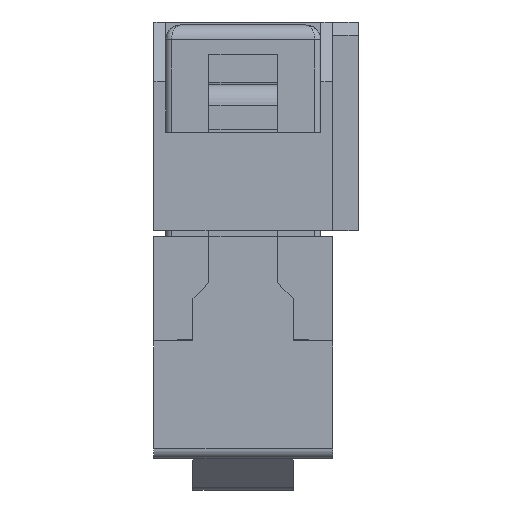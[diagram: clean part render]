
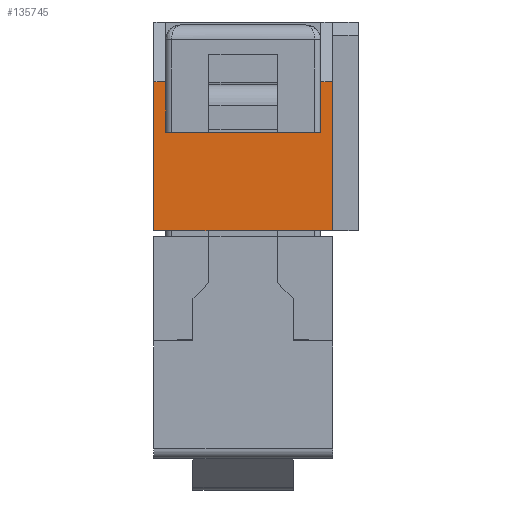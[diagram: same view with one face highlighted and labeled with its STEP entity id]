
A CAD part, left-side view. The second image highlights one B-rep face of the part: STEP entity #135745.
In plain terms, the highlighted planar face has unit normal (-1, 0, 0).
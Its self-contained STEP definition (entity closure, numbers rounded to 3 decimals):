
#127527 = PLANE('',#127528);
#127528 = AXIS2_PLACEMENT_3D('',#127529,#127530,#127531);
#127529 = CARTESIAN_POINT('',(-27.74,-3.,0.));
#127530 = DIRECTION('',(0.,0.,1.));
#127531 = DIRECTION('',(1.,0.,0.));
#130089 = VERTEX_POINT('',#130090);
#130090 = CARTESIAN_POINT('',(-27.74,-3.,0.));
#130104 = PLANE('',#130105);
#130105 = AXIS2_PLACEMENT_3D('',#130106,#130107,#130108);
#130106 = CARTESIAN_POINT('',(-27.74,-3.,7.));
#130107 = DIRECTION('',(0.,1.,0.));
#130108 = DIRECTION('',(-1.,0.,0.));
#130116 = EDGE_CURVE('',#130117,#130089,#130119,.T.);
#130117 = VERTEX_POINT('',#130118);
#130118 = CARTESIAN_POINT('',(-27.74,3.,0.));
#130119 = SURFACE_CURVE('',#130120,(#130124,#130131),.PCURVE_S1.);
#130120 = LINE('',#130121,#130122);
#130121 = CARTESIAN_POINT('',(-27.74,3.,0.));
#130122 = VECTOR('',#130123,1.);
#130123 = DIRECTION('',(0.,-1.,0.));
#130124 = PCURVE('',#127527,#130125);
#130125 = DEFINITIONAL_REPRESENTATION('',(#130126),#130130);
#130126 = LINE('',#130127,#130128);
#130127 = CARTESIAN_POINT('',(0.,6.));
#130128 = VECTOR('',#130129,1.);
#130129 = DIRECTION('',(0.,-1.));
#130130 = ( GEOMETRIC_REPRESENTATION_CONTEXT(2) 
PARAMETRIC_REPRESENTATION_CONTEXT() REPRESENTATION_CONTEXT('2D SPACE',''
  ) );
#130131 = PCURVE('',#130132,#130137);
#130132 = PLANE('',#130133);
#130133 = AXIS2_PLACEMENT_3D('',#130134,#130135,#130136);
#130134 = CARTESIAN_POINT('',(-27.74,3.,7.));
#130135 = DIRECTION('',(1.,0.,0.));
#130136 = DIRECTION('',(0.,0.,-1.));
#130137 = DEFINITIONAL_REPRESENTATION('',(#130138),#130142);
#130138 = LINE('',#130139,#130140);
#130139 = CARTESIAN_POINT('',(7.,0.));
#130140 = VECTOR('',#130141,1.);
#130141 = DIRECTION('',(0.,-1.));
#130142 = ( GEOMETRIC_REPRESENTATION_CONTEXT(2) 
PARAMETRIC_REPRESENTATION_CONTEXT() REPRESENTATION_CONTEXT('2D SPACE',''
  ) );
#130160 = PLANE('',#130161);
#130161 = AXIS2_PLACEMENT_3D('',#130162,#130163,#130164);
#130162 = CARTESIAN_POINT('',(27.74,3.,7.));
#130163 = DIRECTION('',(0.,-1.,0.));
#130164 = DIRECTION('',(1.,0.,0.));
#132456 = PLANE('',#132457);
#132457 = AXIS2_PLACEMENT_3D('',#132458,#132459,#132460);
#132458 = CARTESIAN_POINT('',(-27.34,-2.6,56.339));
#132459 = DIRECTION('',(0.,1.,0.));
#132460 = DIRECTION('',(-1.,0.,0.));
#132529 = PLANE('',#132530);
#132530 = AXIS2_PLACEMENT_3D('',#132531,#132532,#132533);
#132531 = CARTESIAN_POINT('',(-25.94,2.6,56.339));
#132532 = DIRECTION('',(0.,-1.,0.));
#132533 = DIRECTION('',(1.,0.,0.));
#135745 = ADVANCED_FACE('',(#135746),#130132,.F.);
#135746 = FACE_BOUND('',#135747,.T.);
#135747 = EDGE_LOOP('',(#135748,#135778,#135801,#135829,#135852,#135880,
    #135901,#135902));
#135748 = ORIENTED_EDGE('',*,*,#135749,.F.);
#135749 = EDGE_CURVE('',#135750,#135752,#135754,.T.);
#135750 = VERTEX_POINT('',#135751);
#135751 = CARTESIAN_POINT('',(-27.74,-2.6,5.));
#135752 = VERTEX_POINT('',#135753);
#135753 = CARTESIAN_POINT('',(-27.74,-3.,5.));
#135754 = SURFACE_CURVE('',#135755,(#135759,#135766),.PCURVE_S1.);
#135755 = LINE('',#135756,#135757);
#135756 = CARTESIAN_POINT('',(-27.74,3.,5.));
#135757 = VECTOR('',#135758,1.);
#135758 = DIRECTION('',(0.,-1.,0.));
#135759 = PCURVE('',#130132,#135760);
#135760 = DEFINITIONAL_REPRESENTATION('',(#135761),#135765);
#135761 = LINE('',#135762,#135763);
#135762 = CARTESIAN_POINT('',(2.,0.));
#135763 = VECTOR('',#135764,1.);
#135764 = DIRECTION('',(0.,-1.));
#135765 = ( GEOMETRIC_REPRESENTATION_CONTEXT(2) 
PARAMETRIC_REPRESENTATION_CONTEXT() REPRESENTATION_CONTEXT('2D SPACE',''
  ) );
#135766 = PCURVE('',#135767,#135772);
#135767 = PLANE('',#135768);
#135768 = AXIS2_PLACEMENT_3D('',#135769,#135770,#135771);
#135769 = CARTESIAN_POINT('',(-27.74,-56.339,5.));
#135770 = DIRECTION('',(-0.894,0.,0.447));
#135771 = DIRECTION('',(0.447,0.,0.894));
#135772 = DEFINITIONAL_REPRESENTATION('',(#135773),#135777);
#135773 = LINE('',#135774,#135775);
#135774 = CARTESIAN_POINT('',(0.,59.339));
#135775 = VECTOR('',#135776,1.);
#135776 = DIRECTION('',(0.,-1.));
#135777 = ( GEOMETRIC_REPRESENTATION_CONTEXT(2) 
PARAMETRIC_REPRESENTATION_CONTEXT() REPRESENTATION_CONTEXT('2D SPACE',''
  ) );
#135778 = ORIENTED_EDGE('',*,*,#135779,.F.);
#135779 = EDGE_CURVE('',#135780,#135750,#135782,.T.);
#135780 = VERTEX_POINT('',#135781);
#135781 = CARTESIAN_POINT('',(-27.74,-2.6,3.3));
#135782 = SURFACE_CURVE('',#135783,(#135787,#135794),.PCURVE_S1.);
#135783 = LINE('',#135784,#135785);
#135784 = CARTESIAN_POINT('',(-27.74,-2.6,3.3));
#135785 = VECTOR('',#135786,1.);
#135786 = DIRECTION('',(0.,0.,1.));
#135787 = PCURVE('',#130132,#135788);
#135788 = DEFINITIONAL_REPRESENTATION('',(#135789),#135793);
#135789 = LINE('',#135790,#135791);
#135790 = CARTESIAN_POINT('',(3.7,-5.6));
#135791 = VECTOR('',#135792,1.);
#135792 = DIRECTION('',(-1.,0.));
#135793 = ( GEOMETRIC_REPRESENTATION_CONTEXT(2) 
PARAMETRIC_REPRESENTATION_CONTEXT() REPRESENTATION_CONTEXT('2D SPACE',''
  ) );
#135794 = PCURVE('',#132456,#135795);
#135795 = DEFINITIONAL_REPRESENTATION('',(#135796),#135800);
#135796 = LINE('',#135797,#135798);
#135797 = CARTESIAN_POINT('',(0.4,-53.039));
#135798 = VECTOR('',#135799,1.);
#135799 = DIRECTION('',(0.,1.));
#135800 = ( GEOMETRIC_REPRESENTATION_CONTEXT(2) 
PARAMETRIC_REPRESENTATION_CONTEXT() REPRESENTATION_CONTEXT('2D SPACE',''
  ) );
#135801 = ORIENTED_EDGE('',*,*,#135802,.F.);
#135802 = EDGE_CURVE('',#135803,#135780,#135805,.T.);
#135803 = VERTEX_POINT('',#135804);
#135804 = CARTESIAN_POINT('',(-27.74,2.6,3.3));
#135805 = SURFACE_CURVE('',#135806,(#135810,#135817),.PCURVE_S1.);
#135806 = LINE('',#135807,#135808);
#135807 = CARTESIAN_POINT('',(-27.74,2.6,3.3));
#135808 = VECTOR('',#135809,1.);
#135809 = DIRECTION('',(0.,-1.,0.));
#135810 = PCURVE('',#130132,#135811);
#135811 = DEFINITIONAL_REPRESENTATION('',(#135812),#135816);
#135812 = LINE('',#135813,#135814);
#135813 = CARTESIAN_POINT('',(3.7,-0.4));
#135814 = VECTOR('',#135815,1.);
#135815 = DIRECTION('',(0.,-1.));
#135816 = ( GEOMETRIC_REPRESENTATION_CONTEXT(2) 
PARAMETRIC_REPRESENTATION_CONTEXT() REPRESENTATION_CONTEXT('2D SPACE',''
  ) );
#135817 = PCURVE('',#135818,#135823);
#135818 = PLANE('',#135819);
#135819 = AXIS2_PLACEMENT_3D('',#135820,#135821,#135822);
#135820 = CARTESIAN_POINT('',(28.599,2.6,3.3));
#135821 = DIRECTION('',(0.,0.,-1.));
#135822 = DIRECTION('',(-1.,0.,0.));
#135823 = DEFINITIONAL_REPRESENTATION('',(#135824),#135828);
#135824 = LINE('',#135825,#135826);
#135825 = CARTESIAN_POINT('',(56.339,0.));
#135826 = VECTOR('',#135827,1.);
#135827 = DIRECTION('',(0.,-1.));
#135828 = ( GEOMETRIC_REPRESENTATION_CONTEXT(2) 
PARAMETRIC_REPRESENTATION_CONTEXT() REPRESENTATION_CONTEXT('2D SPACE',''
  ) );
#135829 = ORIENTED_EDGE('',*,*,#135830,.F.);
#135830 = EDGE_CURVE('',#135831,#135803,#135833,.T.);
#135831 = VERTEX_POINT('',#135832);
#135832 = CARTESIAN_POINT('',(-27.74,2.6,5.));
#135833 = SURFACE_CURVE('',#135834,(#135838,#135845),.PCURVE_S1.);
#135834 = LINE('',#135835,#135836);
#135835 = CARTESIAN_POINT('',(-27.74,2.6,5.8));
#135836 = VECTOR('',#135837,1.);
#135837 = DIRECTION('',(0.,0.,-1.));
#135838 = PCURVE('',#130132,#135839);
#135839 = DEFINITIONAL_REPRESENTATION('',(#135840),#135844);
#135840 = LINE('',#135841,#135842);
#135841 = CARTESIAN_POINT('',(1.2,-0.4));
#135842 = VECTOR('',#135843,1.);
#135843 = DIRECTION('',(1.,0.));
#135844 = ( GEOMETRIC_REPRESENTATION_CONTEXT(2) 
PARAMETRIC_REPRESENTATION_CONTEXT() REPRESENTATION_CONTEXT('2D SPACE',''
  ) );
#135845 = PCURVE('',#132529,#135846);
#135846 = DEFINITIONAL_REPRESENTATION('',(#135847),#135851);
#135847 = LINE('',#135848,#135849);
#135848 = CARTESIAN_POINT('',(-1.8,-50.539));
#135849 = VECTOR('',#135850,1.);
#135850 = DIRECTION('',(0.,-1.));
#135851 = ( GEOMETRIC_REPRESENTATION_CONTEXT(2) 
PARAMETRIC_REPRESENTATION_CONTEXT() REPRESENTATION_CONTEXT('2D SPACE',''
  ) );
#135852 = ORIENTED_EDGE('',*,*,#135853,.F.);
#135853 = EDGE_CURVE('',#135854,#135831,#135856,.T.);
#135854 = VERTEX_POINT('',#135855);
#135855 = CARTESIAN_POINT('',(-27.74,3.,5.));
#135856 = SURFACE_CURVE('',#135857,(#135861,#135868),.PCURVE_S1.);
#135857 = LINE('',#135858,#135859);
#135858 = CARTESIAN_POINT('',(-27.74,3.,5.));
#135859 = VECTOR('',#135860,1.);
#135860 = DIRECTION('',(0.,-1.,0.));
#135861 = PCURVE('',#130132,#135862);
#135862 = DEFINITIONAL_REPRESENTATION('',(#135863),#135867);
#135863 = LINE('',#135864,#135865);
#135864 = CARTESIAN_POINT('',(2.,0.));
#135865 = VECTOR('',#135866,1.);
#135866 = DIRECTION('',(0.,-1.));
#135867 = ( GEOMETRIC_REPRESENTATION_CONTEXT(2) 
PARAMETRIC_REPRESENTATION_CONTEXT() REPRESENTATION_CONTEXT('2D SPACE',''
  ) );
#135868 = PCURVE('',#135869,#135874);
#135869 = PLANE('',#135870);
#135870 = AXIS2_PLACEMENT_3D('',#135871,#135872,#135873);
#135871 = CARTESIAN_POINT('',(-27.74,-56.339,5.));
#135872 = DIRECTION('',(-0.894,0.,0.447));
#135873 = DIRECTION('',(0.447,0.,0.894));
#135874 = DEFINITIONAL_REPRESENTATION('',(#135875),#135879);
#135875 = LINE('',#135876,#135877);
#135876 = CARTESIAN_POINT('',(0.,59.339));
#135877 = VECTOR('',#135878,1.);
#135878 = DIRECTION('',(0.,-1.));
#135879 = ( GEOMETRIC_REPRESENTATION_CONTEXT(2) 
PARAMETRIC_REPRESENTATION_CONTEXT() REPRESENTATION_CONTEXT('2D SPACE',''
  ) );
#135880 = ORIENTED_EDGE('',*,*,#135881,.T.);
#135881 = EDGE_CURVE('',#135854,#130117,#135882,.T.);
#135882 = SURFACE_CURVE('',#135883,(#135887,#135894),.PCURVE_S1.);
#135883 = LINE('',#135884,#135885);
#135884 = CARTESIAN_POINT('',(-27.74,3.,7.));
#135885 = VECTOR('',#135886,1.);
#135886 = DIRECTION('',(0.,0.,-1.));
#135887 = PCURVE('',#130132,#135888);
#135888 = DEFINITIONAL_REPRESENTATION('',(#135889),#135893);
#135889 = LINE('',#135890,#135891);
#135890 = CARTESIAN_POINT('',(0.,0.));
#135891 = VECTOR('',#135892,1.);
#135892 = DIRECTION('',(1.,0.));
#135893 = ( GEOMETRIC_REPRESENTATION_CONTEXT(2) 
PARAMETRIC_REPRESENTATION_CONTEXT() REPRESENTATION_CONTEXT('2D SPACE',''
  ) );
#135894 = PCURVE('',#130160,#135895);
#135895 = DEFINITIONAL_REPRESENTATION('',(#135896),#135900);
#135896 = LINE('',#135897,#135898);
#135897 = CARTESIAN_POINT('',(-55.48,0.));
#135898 = VECTOR('',#135899,1.);
#135899 = DIRECTION('',(0.,-1.));
#135900 = ( GEOMETRIC_REPRESENTATION_CONTEXT(2) 
PARAMETRIC_REPRESENTATION_CONTEXT() REPRESENTATION_CONTEXT('2D SPACE',''
  ) );
#135901 = ORIENTED_EDGE('',*,*,#130116,.T.);
#135902 = ORIENTED_EDGE('',*,*,#135903,.F.);
#135903 = EDGE_CURVE('',#135752,#130089,#135904,.T.);
#135904 = SURFACE_CURVE('',#135905,(#135909,#135916),.PCURVE_S1.);
#135905 = LINE('',#135906,#135907);
#135906 = CARTESIAN_POINT('',(-27.74,-3.,7.));
#135907 = VECTOR('',#135908,1.);
#135908 = DIRECTION('',(0.,0.,-1.));
#135909 = PCURVE('',#130132,#135910);
#135910 = DEFINITIONAL_REPRESENTATION('',(#135911),#135915);
#135911 = LINE('',#135912,#135913);
#135912 = CARTESIAN_POINT('',(0.,-6.));
#135913 = VECTOR('',#135914,1.);
#135914 = DIRECTION('',(1.,0.));
#135915 = ( GEOMETRIC_REPRESENTATION_CONTEXT(2) 
PARAMETRIC_REPRESENTATION_CONTEXT() REPRESENTATION_CONTEXT('2D SPACE',''
  ) );
#135916 = PCURVE('',#130104,#135917);
#135917 = DEFINITIONAL_REPRESENTATION('',(#135918),#135922);
#135918 = LINE('',#135919,#135920);
#135919 = CARTESIAN_POINT('',(0.,0.));
#135920 = VECTOR('',#135921,1.);
#135921 = DIRECTION('',(-0.,-1.));
#135922 = ( GEOMETRIC_REPRESENTATION_CONTEXT(2) 
PARAMETRIC_REPRESENTATION_CONTEXT() REPRESENTATION_CONTEXT('2D SPACE',''
  ) );
